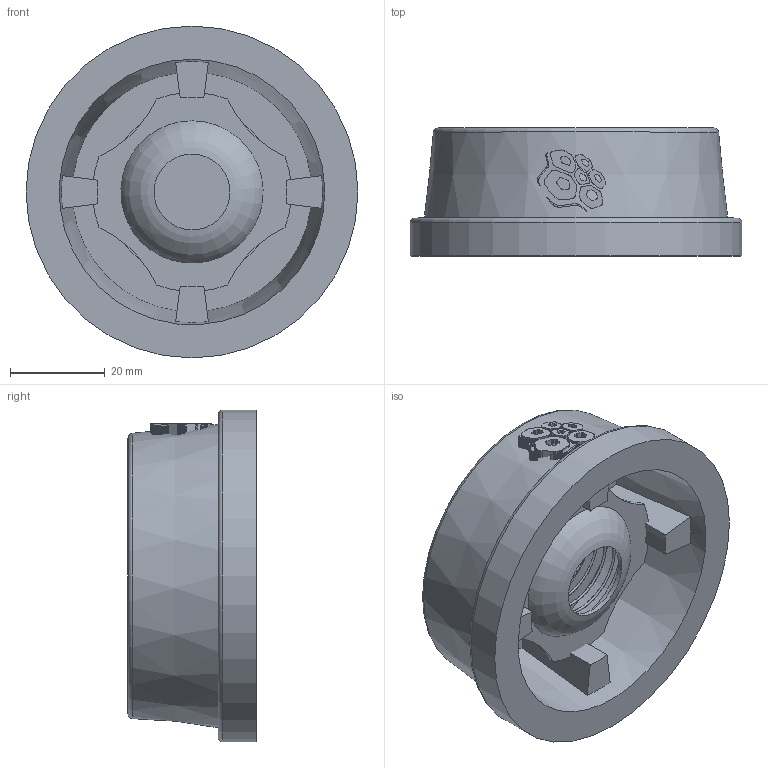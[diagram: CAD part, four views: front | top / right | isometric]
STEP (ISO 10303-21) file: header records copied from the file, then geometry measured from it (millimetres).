
FILE_DESCRIPTION(('STEP AP203'), '1');
FILE_NAME('3D_404-032-40_3', '', ('UNSPECIFIED'), ('UNSPECIFIED'), 'C3D Converter', 'C3D Toolkit', '');
FILE_SCHEMA(('CONFIG_CONTROL_DESIGN'));
Length unit declared in the file: millimetre
Bounding box: 70 x 27 x 70 mm (x, y, z)
Volume: 38054.2 mm3; surface area: 21758.4 mm2
Topology: 12 solids, 12 shells, 875 faces, 2560 edges, 1711 vertices
Faces by surface type: plane 843, cylinder 17, cone 10, torus 4, bspline 1
Full cylindrical faces by diameter (mm): 16 x1, 27.733 x1, 32 x1, 36 x1, 70 x1
Entity records: 38972 total; most frequent: CARTESIAN_POINT 10168, ORIENTED_EDGE 5094, DIRECTION 3569, EDGE_CURVE 2547, VERTEX_POINT 1710, LINE 1687, VECTOR 1687, AXIS2_PLACEMENT_3D 941
